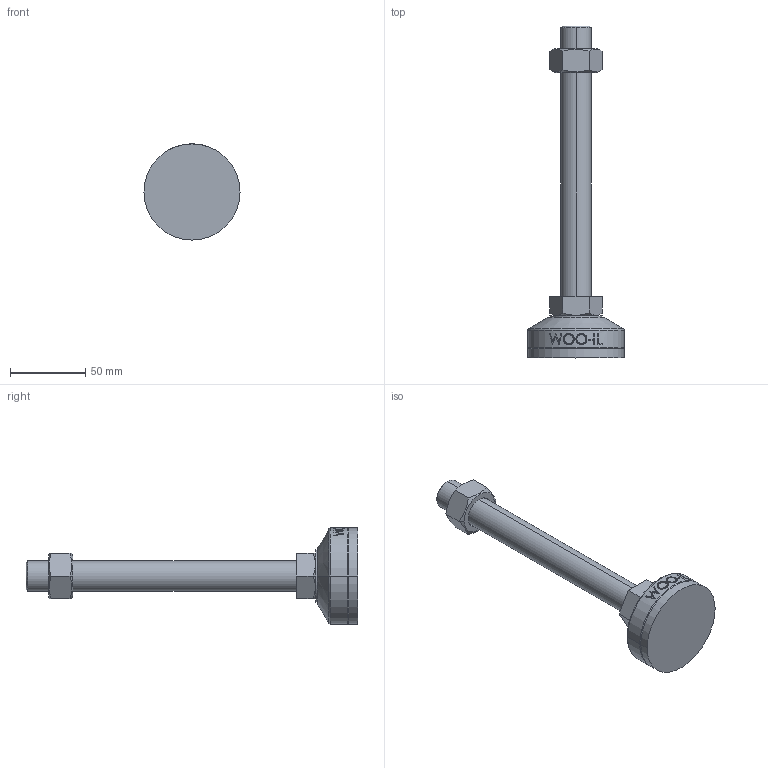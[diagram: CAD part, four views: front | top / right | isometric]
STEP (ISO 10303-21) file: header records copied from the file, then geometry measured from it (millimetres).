
FILE_DESCRIPTION (( 'STEP AP214' ), '1' );
FILE_NAME ('MFZR64-M20-180.step', '2021-03-29T06:56:58', ( '' ), ( '' ), 'SwSTEP 2.0', 'SolidWorks 2019', '' );
FILE_SCHEMA (( 'AUTOMOTIVE_DESIGN' ));
Length unit declared in the file: millimetre
Products named in the file (2): MFZR64-M20-180
Bounding box: 64 x 221 x 64 mm (x, y, z)
Volume: 152293.6 mm3; surface area: 28574.7 mm2
Topology: 3 solids, 3 shells, 102 faces, 235 edges, 150 vertices
Faces by surface type: plane 48, cylinder 18, bspline 16, cone 14, torus 6
Entity records: 4428 total; most frequent: CARTESIAN_POINT 2173, ORIENTED_EDGE 470, DIRECTION 415, EDGE_CURVE 235, AXIS2_PLACEMENT_3D 158, VERTEX_POINT 150, EDGE_LOOP 115, FACE_OUTER_BOUND 102
